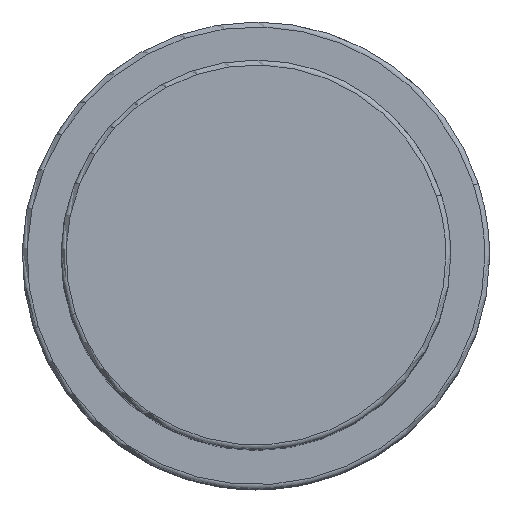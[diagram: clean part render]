
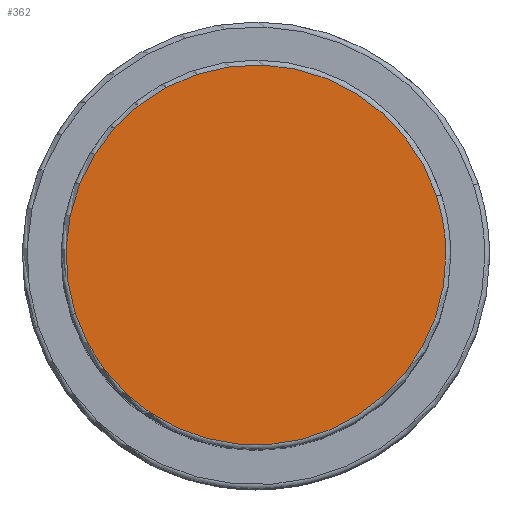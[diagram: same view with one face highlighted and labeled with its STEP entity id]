
A CAD part, top view. The second image highlights one B-rep face of the part: STEP entity #362.
In plain terms, the highlighted planar face has unit normal (0, 0, 1).
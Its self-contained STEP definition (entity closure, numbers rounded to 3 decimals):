
#295=CARTESIAN_POINT('',(18.546,6.026,63.5));
#296=VERTEX_POINT('',#295);
#314=CARTESIAN_POINT('',(-18.546,-6.026,63.5));
#315=VERTEX_POINT('',#314);
#323=CARTESIAN_POINT('',(0.0,0.0,63.5));
#324=DIRECTION('',(0.0,0.0,1.0));
#325=DIRECTION('',(1.0,0.0,0.0));
#326=AXIS2_PLACEMENT_3D('',#323,#324,#325);
#327=CIRCLE('',#326,19.5);
#328=EDGE_CURVE('no 858',#296,#315,#327,.T.);
#338=CARTESIAN_POINT('',(19.5,0.0,63.5));
#339=VERTEX_POINT('',#338);
#340=CARTESIAN_POINT('',(0.0,0.0,63.5));
#341=DIRECTION('',(0.0,0.0,1.0));
#342=DIRECTION('',(1.0,0.0,0.0));
#343=AXIS2_PLACEMENT_3D('',#340,#341,#342);
#344=CIRCLE('',#343,19.5);
#345=EDGE_CURVE('no 867',#339,#296,#344,.T.);
#346=ORIENTED_EDGE('',*,*,#345,.T.);
#347=ORIENTED_EDGE('',*,*,#328,.T.);
#348=CARTESIAN_POINT('',(0.0,0.0,63.5));
#349=DIRECTION('',(0.0,0.0,1.0));
#350=DIRECTION('',(1.0,0.0,0.0));
#351=AXIS2_PLACEMENT_3D('',#348,#349,#350);
#352=CIRCLE('',#351,19.5);
#353=EDGE_CURVE('no 873',#315,#339,#352,.T.);
#354=ORIENTED_EDGE('',*,*,#353,.T.);
#355=EDGE_LOOP('',(#346,#347,#354));
#356=FACE_OUTER_BOUND('',#355,.T.);
#357=CARTESIAN_POINT('',(0.0,0.0,63.5));
#358=DIRECTION('',(0.0,0.0,1.0));
#359=DIRECTION('',(1.0,0.0,0.0));
#360=AXIS2_PLACEMENT_3D('',#357,#358,#359);
#361=PLANE('',#360);
#362=ADVANCED_FACE('no 860',(#356),#361,.T.);
